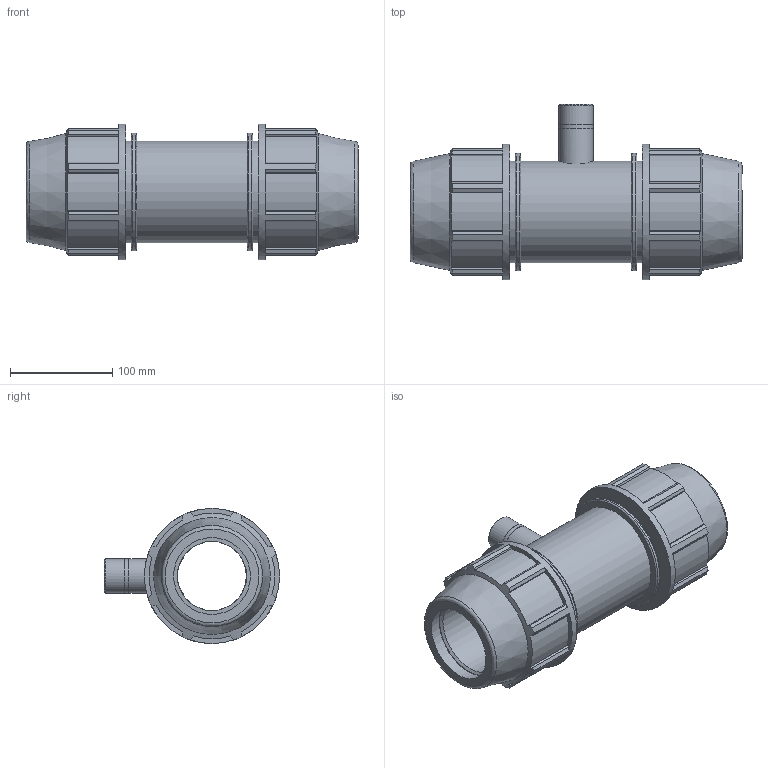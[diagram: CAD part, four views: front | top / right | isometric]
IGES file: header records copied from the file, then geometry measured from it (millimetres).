
Global section: file name: 878100075010_188100075010.ipt; native system: Autodesk Inventor 2015; preprocessor: unknown; author: KIM; date: 20170622.103128; units: millimetre
Bounding box: 324 x 171 x 132 mm (x, y, z)
Volume: 1764921.6 mm3; surface area: 239507.8 mm2
Topology: 1 solids, 1 shells, 140 faces, 391 edges, 265 vertices
Faces by surface type: plane 95, cylinder 26, revolution 14, cone 5
Full cylindrical faces by diameter (mm): 33.249 x2, 33.914 x1, 99 x3, 114.84 x2, 132 x2
